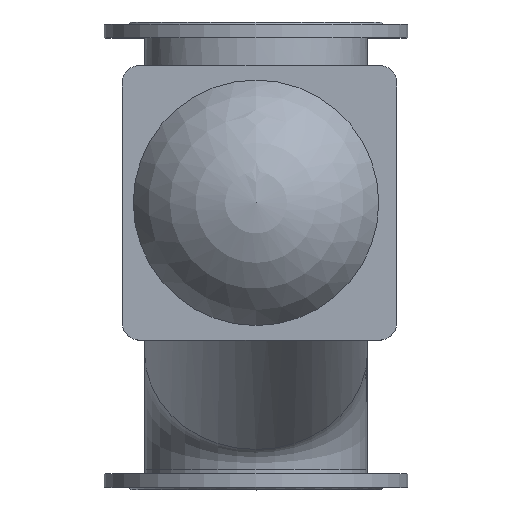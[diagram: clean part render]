
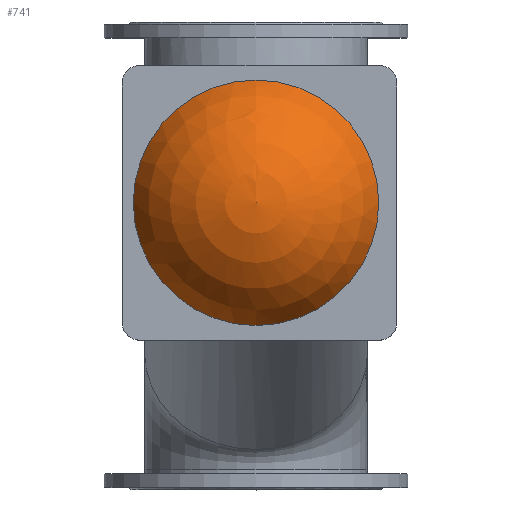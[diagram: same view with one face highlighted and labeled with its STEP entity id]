
A CAD part, top view. The second image highlights one B-rep face of the part: STEP entity #741.
In plain terms, the highlighted spherical face has radius 227.5 mm.
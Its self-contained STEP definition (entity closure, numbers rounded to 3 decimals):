
#741=ADVANCED_FACE('',(#1732),#1734,.T.);
#1732=FACE_OUTER_BOUND('',#1733,.T.);
#1733=EDGE_LOOP('',(#2243));
#1734=SPHERICAL_SURFACE('',#1735,227.5);
#1735=AXIS2_PLACEMENT_3D('',#1736,#1737,#1738);
#1736=CARTESIAN_POINT('',(0.,90.,497.5));
#1737=DIRECTION('',(0.,0.,-1.));
#1738=DIRECTION('',(0.,1.,0.));
#2243=ORIENTED_EDGE('',*,*,#2499,.T.);
#2499=EDGE_CURVE('',#2894,#2894,#2895,.F.);
#2894=VERTEX_POINT('',#4126);
#2895=CIRCLE('',#4127,210.);
#4126=CARTESIAN_POINT('',(0.,300.,585.));
#4127=AXIS2_PLACEMENT_3D('',#4128,#4129,#4130);
#4128=CARTESIAN_POINT('',(0.,90.,585.));
#4129=DIRECTION('',(0.,0.,-1.));
#4130=DIRECTION('',(0.,1.,0.));
